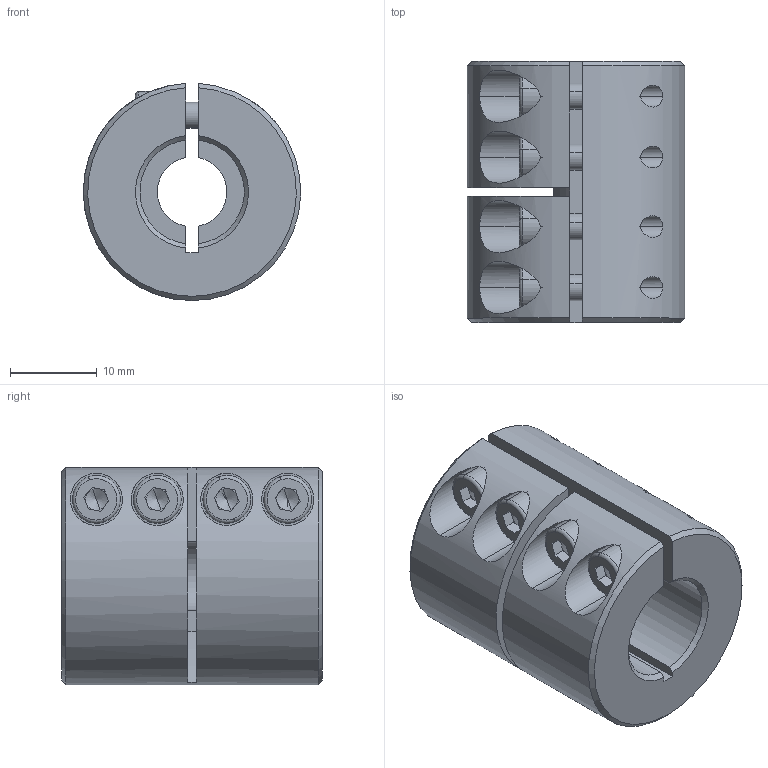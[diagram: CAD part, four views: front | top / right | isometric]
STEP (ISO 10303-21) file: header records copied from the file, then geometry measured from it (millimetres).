
FILE_DESCRIPTION (( 'STEP AP214' ), '1' );
FILE_NAME ('LL-B-D25L30-8-12½¨Ä£.STEP', '2022-07-21T03:16:59', ( '' ), ( '' ), 'SwSTEP 2.0', 'SolidWorks 2022', '' );
FILE_SCHEMA (( 'AUTOMOTIVE_DESIGN' ));
Length unit declared in the file: millimetre
Products named in the file (1): LL-B-D25L30-8-12膘耀
Bounding box: 24.99 x 30 x 24.98 mm (x, y, z)
Volume: 11251.3 mm3; surface area: 5913.1 mm2
Topology: 1 solids, 1 shells, 164 faces, 418 edges, 264 vertices
Faces by surface type: plane 83, cylinder 58, cone 15, torus 8
Entity records: 5402 total; most frequent: CARTESIAN_POINT 1363, DIRECTION 862, ORIENTED_EDGE 820, EDGE_CURVE 410, AXIS2_PLACEMENT_3D 331, VERTEX_POINT 264, LINE 200, VECTOR 200
